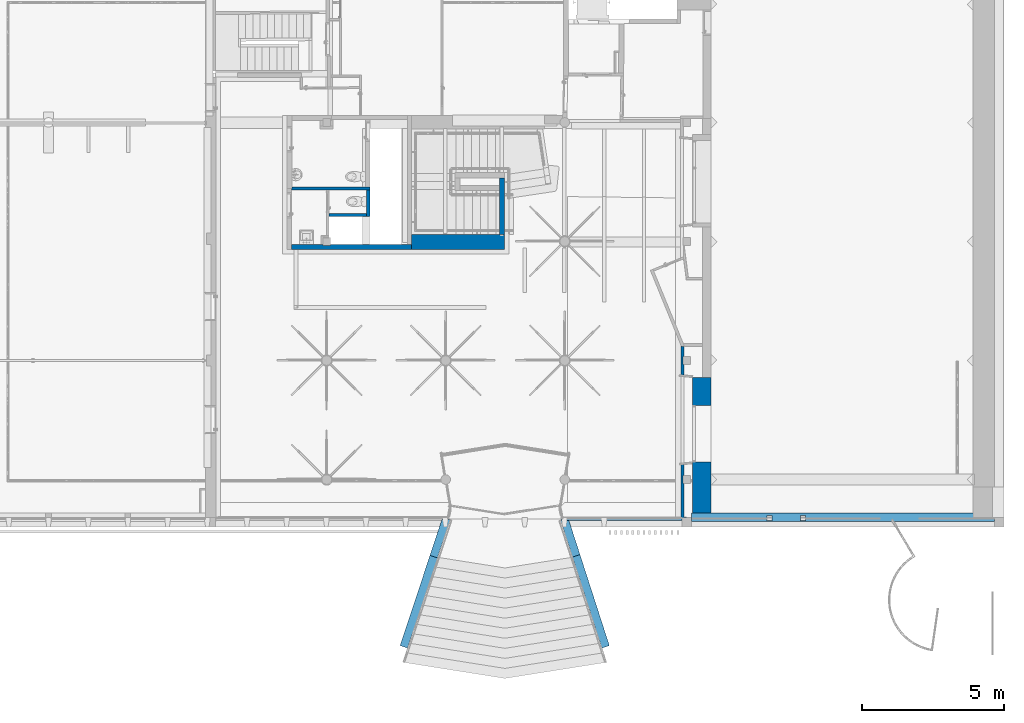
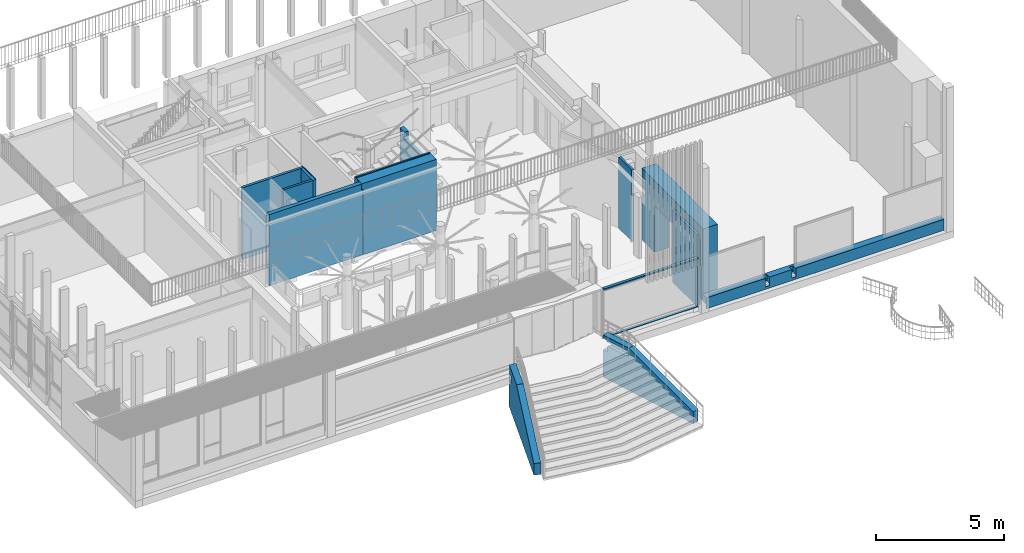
# One storey, part 35 of 65: 13 walls, 2 openings.
"""IFC4 building model written with IfcOpenShell, lengths in metres."""

import ifcopenshell
import ifcopenshell.guid

model = None  # the IFC model being written
_history = None  # IfcOwnerHistory: only IFC2X3 demands one
_inside = {}  # id of a spatial element -> (the spatial element, [elements in it])
_under = {}  # id of a project, library or spatial element -> (it, [spatial elements below it])
_declared = {}  # id of a project -> (the project, [libraries it declares])
_typed = {}  # id of a type object -> (the type object, [elements of that type])
_made_of = {}  # id of a material, layer set ... -> (it, [elements and type objects made of it])


def new_model(schema):
    """Start an empty IFC model of exactly this schema.

    Asked for "IFC4X3", IfcOpenShell would pick the latest addendum, in which some entities
    have other attributes; the version numbers below select the first issue.
    IFC2X3 requires an IfcOwnerHistory on every rooted entity: one is made here for all.
    """
    global model, _history
    if schema == "IFC4X3":
        model = ifcopenshell.file(schema_version=(4, 3, 0, 0))
    else:
        model = ifcopenshell.file(schema=schema)
    _inside.clear()
    _under.clear()
    _declared.clear()
    _typed.clear()
    _made_of.clear()
    _history = None
    if model.schema == "IFC2X3":
        org = make("IfcOrganization", Name="unknown")
        user = make(
            "IfcPersonAndOrganization",
            ThePerson=make("IfcPerson", FamilyName="unknown"),
            TheOrganization=org,
        )
        app = make(
            "IfcApplication",
            ApplicationDeveloper=org,
            Version="unknown",
            ApplicationFullName="unknown",
            ApplicationIdentifier="unknown",
        )
        _history = make(
            "IfcOwnerHistory",
            OwningUser=user,
            OwningApplication=app,
            ChangeAction="ADDED",
            CreationDate=0,
        )
    return model


def make(cls, **values):
    """One entity of the class cls with the attributes given. An attribute that is None is left unset."""
    return model.create_entity(
        cls, **{name: value for name, value in values.items() if value is not None}
    )


def entity(cls, *values):
    """Any entity or typed value of the class cls, its attributes in the order of the schema. None: left unset."""
    e = model.create_entity(cls)
    for i, value in enumerate(values):
        if value is not None:
            e[i] = value
    return e


def rooted(cls, **values):
    """An entity with a GlobalId (a new one), such as an element, a storey or a relation."""
    return make(cls, GlobalId=ifcopenshell.guid.new(), OwnerHistory=_history, **values)


def si_unit(unit_type, name, prefix=None):
    """IfcSIUnit, for example si_unit("LENGTHUNIT", "METRE", prefix="MILLI")."""
    return make("IfcSIUnit", UnitType=unit_type, Prefix=prefix, Name=name)


def converted_unit(unit_type, name, factor, base, dimensions=None, offset=None):
    """IfcConversionBasedUnit, such as the inch: factor (a typed value) times the base unit."""
    return make(
        "IfcConversionBasedUnit"
        if offset is None
        else "IfcConversionBasedUnitWithOffset",
        ConversionOffset=offset,
        Dimensions=None
        if dimensions is None
        else entity("IfcDimensionalExponents", *dimensions),
        UnitType=unit_type,
        Name=name,
        ConversionFactor=make(
            "IfcMeasureWithUnit", ValueComponent=factor, UnitComponent=base
        ),
    )


def derived_unit(unit_type, elements):
    """IfcDerivedUnit: a product of units, each with its exponent."""
    return make(
        "IfcDerivedUnit",
        Elements=[
            make("IfcDerivedUnitElement", Unit=unit, Exponent=power)
            for unit, power in elements
        ],
        UnitType=unit_type,
    )


def assignment(units):
    """IfcUnitAssignment: the units of a project."""
    return None if units is None else make("IfcUnitAssignment", Units=units)


def point(xyz):
    """IfcCartesianPoint."""
    return None if xyz is None else make("IfcCartesianPoint", Coordinates=xyz)


def direction(xyz):
    """IfcDirection."""
    return None if xyz is None else make("IfcDirection", DirectionRatios=xyz)


def frame(location, z_axis=None, x_axis=None):
    """IfcAxis2Placement3D, a coordinate frame: its origin and axes. An axis left out is left unset."""
    return make(
        "IfcAxis2Placement3D",
        Location=point(location),
        Axis=direction(z_axis),
        RefDirection=direction(x_axis),
    )


def origin():
    """The frame at (0, 0, 0) with its axes left unset."""
    return frame((0.0, 0.0, 0.0))


def place(relative_to, where):
    """IfcLocalPlacement: puts the frame where relative to a parent placement (None: the world)."""
    return make(
        "IfcLocalPlacement", PlacementRelTo=relative_to, RelativePlacement=where
    )


def context(
    kind, dimensions, precision=None, world=None, true_north=None, identifier=None
):
    """IfcGeometricRepresentationContext, for example the 3D "Model" context."""
    return make(
        "IfcGeometricRepresentationContext",
        ContextIdentifier=identifier,
        ContextType=kind,
        CoordinateSpaceDimension=dimensions,
        Precision=precision,
        WorldCoordinateSystem=world,
        TrueNorth=true_north,
    )


def subcontext(parent, identifier, kind, view, scale=None):
    """IfcGeometricRepresentationSubContext, for example "Body" below "Model"."""
    return make(
        "IfcGeometricRepresentationSubContext",
        ContextIdentifier=identifier,
        ContextType=kind,
        ParentContext=parent,
        TargetScale=scale,
        TargetView=view,
    )


def project(units=None, contexts=None):
    """IfcProject with its units and contexts."""
    return rooted(
        "IfcProject",
        Name="project",
        RepresentationContexts=contexts,
        UnitsInContext=assignment(units),
    )


def spatial(cls, under=None, at=None, **own):
    """A site, building, storey or space (cls), placed at a placement, below another one or the project."""
    s = rooted(cls, ObjectPlacement=at, **own)
    if under is not None:
        _under.setdefault(under.id(), (under, []))[1].append(s)
    return s


def point_list(points):
    """IfcCartesianPointList2D or 3D."""
    cls = (
        "IfcCartesianPointList2D" if len(points[0]) == 2 else "IfcCartesianPointList3D"
    )
    return make(cls, CoordList=points)


def indexed_curve(points, segments=None, self_intersect=None):
    """IfcIndexedPolyCurve: lines and arcs through numbered points (the first is 1)."""
    return make(
        "IfcIndexedPolyCurve",
        Points=point_list(points),
        Segments=segments,
        SelfIntersect=self_intersect,
    )


def outline(outer, holes=None, kind="AREA"):
    """IfcArbitraryClosedProfileDef: a profile drawn as a closed curve; with holes, ...WithVoids."""
    if holes is None:
        return make("IfcArbitraryClosedProfileDef", ProfileType=kind, OuterCurve=outer)
    return make(
        "IfcArbitraryProfileDefWithVoids",
        ProfileType=kind,
        OuterCurve=outer,
        InnerCurves=holes,
    )


def extrude(swept, where, along, depth):
    """IfcExtrudedAreaSolid: the profile swept, set in the frame where, extruded along a direction by depth."""
    return make(
        "IfcExtrudedAreaSolid",
        SweptArea=swept,
        Position=where,
        ExtrudedDirection=direction(along),
        Depth=depth,
    )


def polygons(points, faces, closed=None, point_numbers=None):
    """IfcPolygonalFaceSet: a face is its outer loop, then its inner loops; points numbered from 1."""
    made = []
    for loops in faces:
        if len(loops) == 1:
            made.append(make("IfcIndexedPolygonalFace", CoordIndex=loops[0]))
        else:
            made.append(
                make(
                    "IfcIndexedPolygonalFaceWithVoids",
                    CoordIndex=loops[0],
                    InnerCoordIndices=loops[1:],
                )
            )
    return make(
        "IfcPolygonalFaceSet",
        Coordinates=point_list(points),
        Closed=closed,
        Faces=made,
        PnIndex=point_numbers,
    )


def shape(context_of_items, identifier, shape_type, items):
    """IfcShapeRepresentation: the items that make up one representation, for example the "Body"."""
    return make(
        "IfcShapeRepresentation",
        ContextOfItems=context_of_items,
        RepresentationIdentifier=identifier,
        RepresentationType=shape_type,
        Items=items,
    )


def material(Name=None, Category=None):
    """IfcMaterial."""
    return make("IfcMaterial", Name=Name, Category=Category)


def layer(
    of_material, thickness, ventilated=None, Name=None, Category=None, Priority=None
):
    """IfcMaterialLayer: one layer of a wall or slab, of a material (None: an air gap)."""
    return make(
        "IfcMaterialLayer",
        Material=of_material,
        LayerThickness=thickness,
        IsVentilated=ventilated,
        Name=Name,
        Category=Category,
        Priority=Priority,
    )


def layer_set(layers, Name=None):
    """IfcMaterialLayerSet."""
    return make("IfcMaterialLayerSet", MaterialLayers=layers, LayerSetName=Name)


def made_of(thing, what):
    """Note that an element or type object is made of a material, layer set ...; save() writes the relation."""
    if what is not None:
        _made_of.setdefault(what.id(), (what, []))[1].append(thing)
    return thing


def type_object(cls, material=None, **own):
    """A type object (cls), such as IfcWallType, which elements share."""
    return made_of(rooted(cls, **own), material)


def element(
    cls,
    number,
    at=None,
    inside=None,
    cuts=None,
    type_object=None,
    material=None,
    context=None,
    identifier="Body",
    shape_type=None,
    held_by="IfcProductDefinitionShape",
    body=None,
    shapes=None,
    **own,
):
    """One element of the class cls, such as IfcWall. Its Tag is "e" and its number.

    at: its placement. inside: the storey or other place that contains it. cuts: it is an
    opening in that element (IfcRelVoidsElement). A single representation is given by context,
    identifier, shape_type and body (its items); several are given by shapes. held_by: the class
    of the entity that holds the representations. save() writes the other relations.
    """
    e = rooted(cls, Tag="e%d" % number, ObjectPlacement=at, **own)
    if body is not None:
        shapes = [shape(context, identifier, shape_type, body)]
    if shapes is not None:
        e.Representation = make(held_by, Representations=shapes)
    if inside is not None:
        _inside.setdefault(inside.id(), (inside, []))[1].append(e)
    if cuts is not None:
        rooted(
            "IfcRelVoidsElement", RelatingBuildingElement=cuts, RelatedOpeningElement=e
        )
    if type_object is not None:
        _typed.setdefault(type_object.id(), (type_object, []))[1].append(e)
    return made_of(e, material)


def aggregate(whole, parts):
    """IfcRelAggregates: a whole, such as a stair, and the parts it consists of."""
    return rooted("IfcRelAggregates", RelatingObject=whole, RelatedObjects=parts)


def save(model, path):
    """Write the relations noted so far, then the file.

    IfcRelAggregates (storeys below a building ...), IfcRelContainedInSpatialStructure (elements
    in a storey), IfcRelDefinesByType, IfcRelAssociatesMaterial and IfcRelDeclares: one each for
    every whole, place, type object, material and project.
    """
    for whole, parts in _under.values():
        aggregate(whole, parts)
    for where, things in _inside.values():
        rooted(
            "IfcRelContainedInSpatialStructure",
            RelatedElements=things,
            RelatingStructure=where,
        )
    for kind, things in _typed.values():
        rooted("IfcRelDefinesByType", RelatedObjects=things, RelatingType=kind)
    for what, things in _made_of.values():
        rooted("IfcRelAssociatesMaterial", RelatedObjects=things, RelatingMaterial=what)
    for by, libraries in _declared.values():
        rooted("IfcRelDeclares", RelatingContext=by, RelatedDefinitions=libraries)
    model.write(path)


model = new_model("IFC4")

# Units and contexts
model_context = context("Model", 3, precision=1e-05, world=origin(), true_north=direction((6.12303176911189e-17, 1.0)))
body_context = subcontext(model_context, "Body", "Model", "MODEL_VIEW")
ifc_project = project(units=[si_unit("LENGTHUNIT", "METRE"), si_unit("AREAUNIT", "SQUARE_METRE"), si_unit("VOLUMEUNIT", "CUBIC_METRE"), converted_unit("PLANEANGLEUNIT", "DEGREE", entity("IfcRatioMeasure", 0.0174532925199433), si_unit("PLANEANGLEUNIT", "RADIAN"), dimensions=[0, 0, 0, 0, 0, 0, 0]), si_unit("MASSUNIT", "GRAM", prefix="KILO"), derived_unit("MASSDENSITYUNIT", [(si_unit("MASSUNIT", "GRAM", prefix="KILO"), 1), (si_unit("LENGTHUNIT", "METRE"), -3)]), derived_unit("MOMENTOFINERTIAUNIT", [(si_unit("LENGTHUNIT", "METRE"), 4)]), si_unit("TIMEUNIT", "SECOND"), si_unit("FREQUENCYUNIT", "HERTZ"), si_unit("THERMODYNAMICTEMPERATUREUNIT", "DEGREE_CELSIUS"), derived_unit("THERMALTRANSMITTANCEUNIT", [(si_unit("MASSUNIT", "GRAM", prefix="KILO"), 1), (si_unit("THERMODYNAMICTEMPERATUREUNIT", "KELVIN"), -1), (si_unit("TIMEUNIT", "SECOND"), -3)]), derived_unit("VOLUMETRICFLOWRATEUNIT", [(si_unit("LENGTHUNIT", "METRE"), 3), (si_unit("TIMEUNIT", "SECOND"), -1)]), si_unit("ELECTRICCURRENTUNIT", "AMPERE"), si_unit("ELECTRICVOLTAGEUNIT", "VOLT"), si_unit("POWERUNIT", "WATT"), si_unit("FORCEUNIT", "NEWTON", prefix="KILO"), si_unit("ILLUMINANCEUNIT", "LUX"), si_unit("LUMINOUSFLUXUNIT", "LUMEN"), si_unit("LUMINOUSINTENSITYUNIT", "CANDELA"), derived_unit("USERDEFINED", [(si_unit("MASSUNIT", "GRAM", prefix="KILO"), -1), (si_unit("LENGTHUNIT", "METRE"), -2), (si_unit("TIMEUNIT", "SECOND"), 3), (si_unit("LUMINOUSFLUXUNIT", "LUMEN"), 1)]), derived_unit("LINEARVELOCITYUNIT", [(si_unit("LENGTHUNIT", "METRE"), 1), (si_unit("TIMEUNIT", "SECOND"), -1)]), si_unit("PRESSUREUNIT", "PASCAL"), derived_unit("USERDEFINED", [(si_unit("LENGTHUNIT", "METRE"), -2), (si_unit("MASSUNIT", "GRAM", prefix="KILO"), 1), (si_unit("TIMEUNIT", "SECOND"), -2)]), derived_unit("LINEARFORCEUNIT", [(si_unit("MASSUNIT", "GRAM", prefix="KILO"), 1), (si_unit("LENGTHUNIT", "METRE"), 1), (si_unit("TIMEUNIT", "SECOND"), -2), (si_unit("LENGTHUNIT", "METRE"), -1)]), derived_unit("PLANARFORCEUNIT", [(si_unit("MASSUNIT", "GRAM", prefix="KILO"), 1), (si_unit("LENGTHUNIT", "METRE"), 1), (si_unit("TIMEUNIT", "SECOND"), -2), (si_unit("LENGTHUNIT", "METRE"), -2)])], contexts=[model_context])

# Site, building, storey
site_placement = place(None, origin())
site = spatial("IfcSite", under=ifc_project, at=site_placement, Name="Default", CompositionType="ELEMENT")
building_placement = place(site_placement, origin())
building = spatial("IfcBuilding", under=site, at=building_placement, Name="HOTEL CONSULAIRE BOULOGNE SUR MER", CompositionType="ELEMENT")
storey_placement = place(building_placement, origin())
storey = spatial("IfcBuildingStorey", under=building, at=storey_placement, Name="Niveau 0", CompositionType="ELEMENT", Elevation=1.31981936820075e-13)

# Wall
ifc_material = material(Name="Mur par défaut", Category="Divers")
ifc_layer_1 = layer(ifc_material, 0.18, Name="Mur par défaut", Category="Divers")
ifc_layer_set_1 = layer_set([ifc_layer_1], Name="Mur de base:Générique - Int.180")
wall_type_1 = type_object("IfcWallType", Name="Mur de base:Générique - Int.180", PredefinedType="NOTDEFINED", material=ifc_layer_set_1)
wall_1_placement = place(storey_placement, frame((-2.46935158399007, -20.0049143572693, 0.0)))
element("IfcWall", 1, at=wall_1_placement, inside=storey, type_object=wall_type_1, material=ifc_layer_set_1, Name="Mur de base:Générique - Int.180", ObjectType="Mur de base:Générique - Int.180", PredefinedType="NOTDEFINED", context=body_context, shape_type="Tessellation", body=[
    polygons([(1.10552835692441, 0.0900000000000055, 0.0), (1.05009062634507e-16, 0.0900000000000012, 0.0), (1.05009062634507e-16, 0.0900000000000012, 3.38652697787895), (1.10552835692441, 0.0900000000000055, 3.38652697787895), (6.80293085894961e-16, -0.0899999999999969, 4.03399441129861e-24), (4.22682289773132, -0.0899999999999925, 0.0), (4.22682289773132, -0.0899999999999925, 3.12470529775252), (4.16182289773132, -0.0899999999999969, 3.12470529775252), (4.16182289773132, -0.0899999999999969, 3.38652697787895), (6.80293085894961e-16, -0.0899999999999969, 3.38652697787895), (4.22682289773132, 0.0900000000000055, 0.0), (1.37552835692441, 0.0900000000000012, 4.03399441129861e-24), (1.37552835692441, 0.0900000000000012, 3.38652697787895), (4.16182289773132, 0.0900000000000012, 3.38652697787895), (4.16182289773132, 0.0900000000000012, 3.12470529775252), (4.22682289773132, 0.0900000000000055, 3.12470529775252), (1.10552835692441, 0.0540045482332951, 0.0), (1.37552835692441, 0.0540045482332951, 0.0), (1.37552835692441, 0.0540045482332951, 3.38652697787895), (1.10552835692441, 0.0540045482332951, 3.38652697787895)], [[[4, 1, 2, 3]], [[15, 16, 11, 12, 13, 14]], [[17, 20, 19, 18]], [[10, 5, 6, 7, 8, 9]], [[5, 2, 1, 17, 18, 12, 11, 6]], [[3, 2, 5, 10]], [[12, 18, 19, 13]], [[1, 4, 20, 17]], [[9, 8, 15, 14]], [[7, 6, 11, 16]], [[15, 8, 7, 16]], [[19, 20, 4, 3, 10, 9, 14, 13]]], closed=True),
])

# Wall, opening
wall_2_placement = place(storey_placement, frame((4.96288639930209, -19.5649143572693, -0.0200000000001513), z_axis=(0.0, 0.0, 1.0), x_axis=(0.0, 1.0, 0.0)))
wall_2 = element("IfcWall", 2, at=wall_2_placement, inside=storey, type_object=wall_type_1, material=ifc_layer_set_1, Name="Mur de base:Générique - Int.180", ObjectType="Mur de base:Générique - Int.180", PredefinedType="NOTDEFINED", context=body_context, shape_type="Tessellation", body=[
    polygons([(1.99602682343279, -0.089999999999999, -2.0726753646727e-16), (1.99602682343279, -0.089999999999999, 3.44152697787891), (1.54002682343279, -0.0899999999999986, 3.44152697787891), (1.54002682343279, -0.0899999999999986, 3.07152697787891), (0.0, -0.0899999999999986, 3.07152697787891), (0.0, -0.0899999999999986, 0.0200000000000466), (0.0, -0.0899999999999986, 0.0), (1.99602682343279, 0.0900000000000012, -2.0726753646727e-16), (0.0, 0.0900000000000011, 0.0), (0.0, 0.0900000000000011, 3.07152697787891), (1.54002682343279, 0.0900000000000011, 3.07152697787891), (1.54002682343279, 0.0900000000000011, 3.44152697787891), (1.72002682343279, 0.0900000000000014, 3.44152697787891), (1.99602682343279, 0.0900000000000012, 3.44152697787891)], [[[7, 1, 2, 3, 4, 5, 6]], [[13, 14, 8, 9, 10, 11, 12]], [[1, 8, 14, 2]], [[1, 7, 9, 8]], [[3, 2, 14, 13, 12]], [[5, 4, 11, 10]], [[6, 5, 10, 9, 7]], [[12, 11, 4, 3]]], closed=True),
])
opening_1_placement = place(wall_2_placement, origin())
element("IfcOpeningElement", 3, at=opening_1_placement, cuts=wall_2, Name="Mur de base:Générique - Int.180", ObjectType="Opening", PredefinedType="OPENING", context=body_context, shape_type="SweptSolid", body=[
    extrude(outline(indexed_curve([(-0.815013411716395, -0.185), (0.815013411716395, -0.185), (0.815013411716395, 0.185), (-0.815013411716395, 0.185), (-0.815013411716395, -0.185)], self_intersect=False)), frame((0.815013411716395, 0.0900000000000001, 3.25652697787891), z_axis=(0.0, -1.0, 0.0), x_axis=(-1.0, 0.0, 0.0)), (0.0, 0.0, 1.0), 0.18),
])

# Walls
ifc_layer_2 = layer(ifc_material, 0.1, Name="Mur par défaut", Category="Divers")
ifc_layer_set_2 = layer_set([ifc_layer_2], Name="Mur de base:Générique - Int. 100 mm")
wall_type_2 = type_object("IfcWallType", Name="Mur de base:Générique - Int. 100 mm", PredefinedType="NOTDEFINED", material=ifc_layer_set_2)
wall_3_placement = place(storey_placement, frame((-1.15234448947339, -18.8827095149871, -0.0200000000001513)))
element("IfcWall", 4, at=wall_3_placement, inside=storey, type_object=wall_type_2, material=ifc_layer_set_2, Name="Mur de base:Générique - Int. 100 mm", ObjectType="Mur de base:Générique - Int. 100 mm", PredefinedType="NOTDEFINED", context=body_context, shape_type="Tessellation", body=[
    polygons([(9.61060734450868e-17, -0.0500000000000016, -2.15727435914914e-16), (1.32461268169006, -0.0500000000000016, -2.15727435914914e-16), (1.32461268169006, -0.0500000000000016, 3.40652697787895), (9.61060734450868e-17, -0.0500000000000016, 3.40652697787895), (1.32461268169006, 0.0499999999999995, -2.15727435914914e-16), (1.46827233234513e-16, 0.0499999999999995, -2.15727435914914e-16), (1.14688420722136e-17, 0.0499999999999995, 3.40652697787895), (1.32461268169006, 0.0499999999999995, 3.40652697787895)], [[[4, 1, 2, 3]], [[8, 5, 6, 7]], [[2, 1, 6, 5]], [[6, 1, 4, 7]], [[2, 5, 8, 3]], [[3, 8, 7, 4]]], closed=True),
])
wall_4_placement = place(storey_placement, frame((11.3270009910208, -29.5980671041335, -0.0200000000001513), z_axis=(0.0, 0.0, 1.0), x_axis=(0.0, 1.0, 0.0)))
element("IfcWall", 5, at=wall_4_placement, inside=storey, type_object=wall_type_2, material=ifc_layer_set_2, Name="Mur de base:Générique - Int. 100 mm", ObjectType="Mur de base:Générique - Int. 100 mm", PredefinedType="NOTDEFINED", context=body_context, shape_type="Tessellation", body=[
    polygons([(1.91625908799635, -0.0500000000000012, -2.15727435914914e-16), (1.91625908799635, -0.0500000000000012, 3.40652697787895), (1.51715729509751, -0.0500000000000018, 3.40652697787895), (1.51715729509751, -0.0500000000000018, -2.15727435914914e-16), (0.0, -0.0500000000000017, 3.40652697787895), (0.0, -0.0500000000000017, -2.15727435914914e-16), (1.24715729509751, -0.0500000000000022, -2.15727435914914e-16), (1.24715729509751, -0.0500000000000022, 3.40652697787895), (1.90574866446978, 0.0499999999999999, -2.15727435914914e-16), (0.0, 0.0499999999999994, 0.0), (0.0, 0.0499999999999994, 3.40652697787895), (1.90574866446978, 0.0499999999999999, 3.40652697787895), (1.51715729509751, -0.0146373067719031, -2.15727435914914e-16), (1.24715729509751, -0.0146373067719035, -2.15727435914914e-16), (1.24715729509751, -0.0146373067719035, 3.40652697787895), (1.51715729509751, -0.0146373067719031, 3.40652697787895)], [[[3, 4, 1, 2]], [[5, 6, 7, 8]], [[13, 16, 15, 14]], [[12, 9, 10, 11]], [[7, 6, 10, 9, 1, 4, 13, 14]], [[5, 8, 15, 16, 3, 2, 12, 11]], [[6, 5, 11, 10]], [[13, 4, 3, 16]], [[1, 9, 12, 2]], [[14, 15, 8, 7]]], closed=True),
])
wall_5_placement = place(storey_placement, frame((11.3270009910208, -24.5317901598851, -0.0200000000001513), z_axis=(0.0, 0.0, 1.0), x_axis=(0.0, 1.0, 0.0)))
element("IfcWall", 6, at=wall_5_placement, inside=storey, type_object=wall_type_2, material=ifc_layer_set_2, Name="Mur de base:Générique - Int. 100 mm", ObjectType="Mur de base:Générique - Int. 100 mm", PredefinedType="NOTDEFINED", context=body_context, shape_type="Tessellation", body=[
    polygons([(1.00765659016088, -0.0500000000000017, -2.15727435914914e-16), (1.00765659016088, -0.0500000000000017, 3.40652697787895), (0.650880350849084, -0.0500000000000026, 3.40652697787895), (0.650880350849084, -0.0500000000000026, -2.15727435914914e-16), (0.0, -0.0500000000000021, 3.40652697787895), (0.0, -0.0500000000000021, -2.15727435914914e-16), (0.380880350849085, -0.0500000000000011, -2.15727435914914e-16), (0.380880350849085, -0.0500000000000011, 3.40652697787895), (1.03955892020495, 0.0499999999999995, -2.15727435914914e-16), (0.00874886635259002, 0.049999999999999, -2.15727435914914e-16), (0.00874886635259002, 0.049999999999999, 3.40652697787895), (1.03955892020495, 0.0499999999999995, 3.40652697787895), (1.00765659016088, 0.0369658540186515, -2.15727435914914e-16), (0.650880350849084, -0.014637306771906, -2.15727435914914e-16), (0.380880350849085, -0.0146373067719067, -2.15727435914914e-16), (0.380880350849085, -0.0146373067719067, 3.40652697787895), (0.650880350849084, -0.014637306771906, 3.40652697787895), (1.00765659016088, 0.0369658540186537, 3.40652697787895)], [[[3, 4, 1, 2]], [[5, 6, 7, 8]], [[14, 17, 16, 15]], [[12, 9, 10, 11]], [[7, 6, 10, 9, 13, 1, 4, 14, 15]], [[3, 2, 18, 12, 11, 5, 8, 16, 17]], [[11, 10, 6, 5]], [[2, 1, 13, 18]], [[15, 16, 8, 7]], [[18, 13, 9, 12]], [[4, 3, 17, 14]]], closed=True),
])
ifc_layer_3 = layer(ifc_material, 0.115, Name="Mur par défaut", Category="Divers")
ifc_layer_set_3 = layer_set([ifc_layer_3], Name="Mur de base:Générique - Int. 115 mm")
wall_type_3 = type_object("IfcWallType", Name="Mur de base:Générique - Int. 115 mm", PredefinedType="NOTDEFINED", material=ifc_layer_set_3)
wall_6_placement = place(storey_placement, frame((-2.46935158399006, -17.9450602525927, -0.0200000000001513)))
element("IfcWall", 7, at=wall_6_placement, inside=storey, type_object=wall_type_3, material=ifc_layer_set_3, Name="Mur de base:Générique - Int. 115 mm", ObjectType="Mur de base:Générique - Int. 115 mm", PredefinedType="NOTDEFINED", context=body_context, shape_type="Tessellation", body=[
    polygons([(4.38000897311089e-17, -0.0574999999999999, -2.15727435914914e-16), (1.22700709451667, -0.0574999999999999, -2.15727435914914e-16), (1.31700709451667, -0.0574999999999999, -2.15727435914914e-16), (2.64161977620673, -0.0574999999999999, -2.15727435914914e-16), (2.77161977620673, -0.0574999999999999, -2.15727435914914e-16), (2.77161977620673, -0.0574999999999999, 3.44152697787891), (2.76098663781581, -0.0574999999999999, 3.44152697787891), (2.76098663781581, -0.0574999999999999, 3.40652697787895), (2.64161977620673, -0.0574999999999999, 3.40652697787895), (1.31700709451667, -0.0574999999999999, 3.40652697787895), (1.22700709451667, -0.0574999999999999, 3.40652697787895), (4.38000897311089e-17, -0.0574999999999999, 3.40652697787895), (2.77161977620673, 0.0574999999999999, -2.15727435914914e-16), (2.61161977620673, 0.0574999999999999, -2.15727435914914e-16), (0.0198949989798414, 0.0574999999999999, -2.15727435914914e-16), (0.0198949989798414, 0.0574999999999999, 3.40652697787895), (2.61161977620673, 0.0574999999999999, 3.40652697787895), (2.76098663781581, 0.0574999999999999, 3.40652697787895), (2.76098663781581, 0.0574999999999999, 3.44152697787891), (2.77161977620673, 0.0574999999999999, 3.44152697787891), (-1.4829582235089e-16, 0.0, -2.15727435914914e-16), (0.0198949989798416, 0.0, -2.15727435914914e-16), (-1.4829582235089e-16, 0.0, 3.40652697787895), (0.0198949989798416, 0.0, 3.40652697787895)], [[[2, 3, 4, 5, 6, 7, 8, 9, 10, 11, 12, 1]], [[13, 14, 15, 16, 17, 18, 19, 20]], [[24, 22, 21, 23]], [[3, 2, 1, 21, 22, 15, 14, 13, 5, 4]], [[7, 6, 20, 19]], [[17, 16, 24, 23, 12, 11, 10, 9, 8, 18]], [[23, 21, 1, 12]], [[16, 15, 22, 24]], [[7, 19, 18, 8]], [[6, 5, 13, 20]]], closed=True),
])
ifc_layer_4 = layer(ifc_material, 0.13, Name="Mur par défaut", Category="Divers")
ifc_layer_set_4 = layer_set([ifc_layer_4], Name="Mur de base:Générique - Int. 130 mm")
wall_type_4 = type_object("IfcWallType", Name="Mur de base:Générique - Int. 130 mm", PredefinedType="NOTDEFINED", material=ifc_layer_set_4)
wall_7_placement = place(storey_placement, frame((0.237268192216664, -18.9327095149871, -0.0200000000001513), z_axis=(0.0, 0.0, 1.0), x_axis=(0.0, 1.0, 0.0)))
element("IfcWall", 8, at=wall_7_placement, inside=storey, type_object=wall_type_4, material=ifc_layer_set_4, Name="Mur de base:Générique - Int. 130 mm", ObjectType="Mur de base:Générique - Int. 130 mm", PredefinedType="NOTDEFINED", context=body_context, shape_type="Tessellation", body=[
    polygons([(0.0, -0.065, -2.15727435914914e-16), (0.930149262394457, -0.065, -2.15727435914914e-16), (0.930149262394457, -0.065, 3.44152697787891), (0.0, -0.065, 3.44152697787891), (0.930149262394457, 0.065, -2.15727435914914e-16), (0.100000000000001, 0.065, -2.15727435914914e-16), (0.0, 0.065, 0.0), (0.0, 0.065, 3.40652697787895), (0.100000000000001, 0.065, 3.40652697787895), (0.930149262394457, 0.065, 3.40652697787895), (0.930149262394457, 0.065, 0.0300000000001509), (0.930149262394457, -0.0543668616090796, 3.44152697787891), (0.0, -0.0543668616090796, 3.44152697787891), (0.0, -0.0543668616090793, 3.40652697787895), (0.930149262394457, -0.0543668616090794, 3.40652697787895)], [[[4, 1, 2, 3]], [[11, 5, 6, 7, 8, 9, 10]], [[13, 12, 15, 14]], [[2, 1, 7, 6, 5]], [[4, 3, 12, 13]], [[9, 8, 14, 15, 10]], [[14, 8, 7, 1, 4, 13]], [[2, 5, 11, 10, 15, 12, 3]]], closed=True),
])
ifc_layer_5 = layer(ifc_material, 0.53, Name="Mur par défaut", Category="Divers")
ifc_layer_set_5 = layer_set([ifc_layer_5], Name="Mur de base:Générique - Int.530")
wall_type_5 = type_object("IfcWallType", Name="Mur de base:Générique - Int.530", PredefinedType="NOTDEFINED", material=ifc_layer_set_5)
wall_8_placement = place(storey_placement, frame((1.67747131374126, -19.8299143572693, 0.0)))
element("IfcWall", 9, at=wall_8_placement, inside=storey, type_object=wall_type_5, material=ifc_layer_set_5, Name="Mur de base:Générique - Int.530", ObjectType="Mur de base:Générique - Int.530", PredefinedType="NOTDEFINED", context=body_context, shape_type="Tessellation", body=[
    polygons([(0.0799999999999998, -0.265, -9.4588531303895e-17), (3.37541508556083, -0.265, -9.45885272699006e-17), (3.37541508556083, -0.265, 3.3865269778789), (8.97080229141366e-17, -0.265, 3.3865269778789), (8.97080229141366e-17, -0.265, 3.12470529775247), (0.0149999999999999, -0.265, 3.12470529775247), (0.08, -0.265, 3.12470529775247), (3.37541508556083, 0.265, -9.4588531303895e-17), (0.0799999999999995, 0.265, -9.45885272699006e-17), (0.0799999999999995, 0.265, 3.12470529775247), (5.5744602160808e-17, 0.265, 3.12470529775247), (3.26461384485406e-16, 0.265, 3.42152697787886), (0.0799999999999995, 0.265, 3.42152697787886), (1.44534228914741, 0.265, 3.42152697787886), (3.37541508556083, 0.265, 3.42152697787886), (3.37541508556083, 0.265, 3.05152697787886), (0.0799999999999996, -0.0850000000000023, -9.45885272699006e-17), (6.80580667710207e-17, -0.0499195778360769, 3.42152697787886), (0.0150000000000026, -0.0499195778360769, 3.42152697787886), (0.015000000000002, 0.194999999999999, 3.42152697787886), (3.37541508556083, 0.195000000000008, 3.42152697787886), (3.37541508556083, 0.195000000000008, 3.3865269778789), (6.80580667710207e-17, -0.0499195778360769, 3.3865269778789), (0.0799999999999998, -0.0850000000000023, 3.12470529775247), (0.015000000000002, 0.194999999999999, 3.3865269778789), (0.0150000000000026, -0.0499195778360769, 3.3865269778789)], [[[4, 5, 6, 7, 1, 2, 3]], [[20, 25, 22, 21]], [[18, 23, 26, 19]], [[16, 8, 9, 10, 11, 12, 13, 14, 15]], [[2, 1, 17, 9, 8]], [[5, 11, 10, 24, 7, 6]], [[20, 21, 15, 14, 13, 12, 18, 19]], [[25, 26, 23, 4, 3, 22]], [[2, 8, 16, 15, 21, 22, 3]], [[20, 19, 26, 25]], [[23, 18, 12, 11, 5, 4]], [[17, 1, 7, 24, 10, 9]]], closed=True),
])

# Wall, opening
ifc_layer_6 = layer(ifc_material, 0.65, Name="Mur par défaut", Category="Divers")
ifc_layer_set_6 = layer_set([ifc_layer_6], Name="Mur de base:Générique - Int. 650")
wall_type_6 = type_object("IfcWallType", Name="Mur de base:Générique - Int. 650", PredefinedType="NOTDEFINED", material=ifc_layer_set_6)
wall_9_placement = place(storey_placement, frame((12.0014778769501, -29.3880671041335, -0.0200000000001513), z_axis=(0.0, 0.0, 1.0), x_axis=(0.0, 1.0, 0.0)))
wall_9 = element("IfcWall", 10, at=wall_9_placement, inside=storey, type_object=wall_type_6, material=ifc_layer_set_6, Name="Mur de base:Générique - Int. 650", ObjectType="Mur de base:Générique - Int. 650", PredefinedType="NOTDEFINED", context=body_context, shape_type="Tessellation", body=[
    polygons([(4.77654680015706, 0.325000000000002, -2.15727435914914e-16), (4.77654680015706, -0.324999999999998, -2.15727435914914e-16), (3.78508477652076, -0.324999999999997, -2.15727435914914e-16), (3.78508477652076, 0.325000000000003, -2.15727435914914e-16), (4.77654680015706, -0.324999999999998, 3.40652697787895), (0.0, -0.324999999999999, 3.40652697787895), (0.0, -0.324999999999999, 0.0200000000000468), (0.0, -0.324999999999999, -2.15727435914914e-16), (1.78801079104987, -0.324999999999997, -2.15727435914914e-16), (1.78801079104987, -0.324999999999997, 0.0200000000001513), (1.78801079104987, -0.324999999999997, 2.20791504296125), (3.78508477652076, -0.324999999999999, 2.20791504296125), (3.78508477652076, -0.324999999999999, 0.0200000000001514), (4.77654680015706, -0.324999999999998, 0.0200000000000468), (4.33146851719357e-15, 0.325, 3.40652697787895), (4.77654680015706, 0.325000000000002, 3.40652697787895), (4.77654680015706, 0.325000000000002, 0.0200000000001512), (3.78508477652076, 0.325, 0.0200000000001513), (3.78508477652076, 0.325, 2.20791504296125), (1.78801079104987, 0.325000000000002, 2.20791504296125), (1.78801079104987, 0.325000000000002, -2.15727435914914e-16), (1.73773537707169, 0.325000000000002, -2.15727435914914e-16), (4.33146851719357e-15, 0.325, -2.15727435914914e-16)], [[[2, 3, 4, 1]], [[9, 8, 23, 22, 21]], [[11, 20, 19, 12]], [[8, 9, 10, 11, 12, 13, 3, 2, 14, 5, 6, 7]], [[1, 4, 18, 19, 20, 21, 22, 23, 15, 16, 17]], [[14, 2, 1, 17, 16, 5]], [[10, 9, 21, 20, 11]], [[6, 5, 16, 15]], [[12, 19, 18, 4, 3, 13]], [[15, 23, 8, 7, 6]]], closed=True),
])
opening_2_placement = place(wall_9_placement, frame((1.78801079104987, 0.477400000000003, 0.0199999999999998)))
element("IfcOpeningElement", 11, at=opening_2_placement, cuts=wall_9, Name="Mur de base:Générique - Int. 650", ObjectType="Opening", PredefinedType="OPENING", context=body_context, shape_type="SweptSolid", body=[
    extrude(outline(indexed_curve([(-1.09395752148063, -0.998536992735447), (1.09395752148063, -0.998536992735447), (1.09395752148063, 0.998536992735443), (-1.09395752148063, 0.998536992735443), (-1.09395752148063, -0.998536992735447)], self_intersect=False)), frame((0.998536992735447, -0.954800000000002, 1.09395752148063), z_axis=(0.0, 1.0, 0.0), x_axis=(0.0, 0.0, 1.0)), (0.0, 0.0, 1.0), 0.9548),
])

# Walls
ifc_layer_7 = layer(ifc_material, 0.12, Name="Mur par défaut", Category="Divers")
ifc_layer_set_7 = layer_set([ifc_layer_7], Name="Mur de base:Générique - Int.120")
wall_type_7 = type_object("IfcWallType", Name="Mur de base:Générique - Int.120", PredefinedType="NOTDEFINED", material=ifc_layer_set_7)
wall_10_placement = place(storey_placement, frame((11.4596042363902, -29.5980671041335, -0.0200000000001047), z_axis=(0.0, 0.0, 1.0), x_axis=(-1.0, 0.0, 0.0)))
element("IfcWall", 12, at=wall_10_placement, inside=storey, type_object=wall_type_7, material=ifc_layer_set_7, Name="Mur de base:Générique - Int.120", ObjectType="Mur de base:Générique - Int.120", PredefinedType="NOTDEFINED", context=body_context, shape_type="Tessellation", body=[
    polygons([(0.15296593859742, -0.0439999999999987, 0.0), (0.15296593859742, -0.0439999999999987, 0.0199999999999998), (0.15296593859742, 0.0599999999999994, 0.0199999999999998), (0.15296593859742, 0.0599999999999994, 0.0), (4.41442746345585, 0.0599999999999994, 0.02), (4.41442746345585, 0.0599999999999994, 2.45337083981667e-16), (4.41442746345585, -0.0599999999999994, 2.45337083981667e-16), (4.41442746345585, -0.0599999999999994, 0.0200000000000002), (6.13868373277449e-16, -0.0599999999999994, 2.45337083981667e-16), (0.152965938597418, -0.0599999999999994, 0.0200000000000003), (0.152965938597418, -0.0599999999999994, 2.27), (4.41442746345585, -0.0599999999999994, 2.27), (4.41442746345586, -0.0599999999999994, 2.336), (0.152965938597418, -0.0599999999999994, 2.336), (0.152965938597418, -0.0599999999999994, 3.07852697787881), (6.13868373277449e-16, -0.0599999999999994, 3.07852697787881), (4.41442746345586, 0.0599999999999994, 2.27), (0.152965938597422, 0.0599999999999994, 2.27), (0.152965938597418, 0.0599999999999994, 2.336), (4.41442746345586, 0.0599999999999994, 2.336), (5.61410412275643e-16, -0.0439999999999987, 2.45337083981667e-16), (0.152965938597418, -0.0439999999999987, 3.07852697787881), (5.61410412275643e-16, -0.0439999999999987, 3.07852697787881), (0.152965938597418, -0.0439999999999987, 2.27), (0.152965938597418, -0.0439999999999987, 2.336)], [[[1, 2, 3, 4]], [[9, 16, 23, 21]], [[24, 25, 19, 18]], [[5, 6, 4, 3]], [[20, 17, 18, 19]], [[25, 24, 2, 1, 21, 23, 22]], [[8, 7, 6, 5]], [[13, 12, 17, 20]], [[24, 11, 10, 2]], [[25, 22, 15, 14]], [[11, 12, 13, 14, 15, 16, 9, 7, 8, 10]], [[1, 4, 6, 7, 9, 21]], [[24, 18, 17, 12, 11]], [[16, 15, 22, 23]], [[2, 10, 8, 5, 3]], [[25, 14, 13, 20, 19]]], closed=True),
])
ifc_layer_8 = layer(ifc_material, 0.3, Name="Mur par défaut", Category="Divers")
ifc_layer_set_8 = layer_set([ifc_layer_8], Name="Mur de base:Générique - Ext. 300 mm")
wall_type_8 = type_object("IfcWallType", Name="Mur de base:Générique - Ext. 300 mm", PredefinedType="NOTDEFINED", material=ifc_layer_set_8)
wall_11_placement = place(storey_placement, frame((11.6466382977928, -29.5380671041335, -0.220000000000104)))
element("IfcWall", 13, at=wall_11_placement, inside=storey, type_object=wall_type_8, material=ifc_layer_set_8, Name="Mur de base:Générique - Ext. 300 mm", ObjectType="Mur de base:Générique - Ext. 300 mm", PredefinedType="NOTDEFINED", context=body_context, shape_type="Tessellation", body=[
    polygons([(3.84178526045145, -0.120000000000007, 0.200000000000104), (2.83983957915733, -0.120000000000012, 0.200000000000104), (2.83983957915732, 1.29944055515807e-14, 0.200000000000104), (3.84178526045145, 1.73258740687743e-14, 0.200000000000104), (2.84001851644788, -0.150000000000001, 0.117985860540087), (2.83983957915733, -0.149000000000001, 0.117985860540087), (2.83983957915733, -0.120000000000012, 0.117985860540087), (2.65983957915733, -0.120000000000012, 0.117985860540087), (2.65983957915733, -0.150000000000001, 0.117985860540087), (9.93129766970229, 4.33146851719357e-14, 0.22), (9.93129766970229, 4.33146851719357e-14, 0.200000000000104), (4.02178526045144, 1.29944055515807e-14, 0.2), (4.02178526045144, 1.29944055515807e-14, 0.22), (2.65983957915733, -0.120000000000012, 0.200000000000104), (1.52445925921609e-15, -0.120000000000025, 0.200000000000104), (4.71821862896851e-15, 0.150000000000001, 0.200000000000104), (0.0298395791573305, 0.150000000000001, 0.200000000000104), (0.67983957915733, 0.150000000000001, 0.200000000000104), (0.679839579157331, 4.33146851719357e-15, 0.200000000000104), (2.65983957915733, 1.29944055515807e-14, 0.200000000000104), (2.83983957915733, 8.66293703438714e-15, 0.22), (3.84178526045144, 1.29944055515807e-14, 0.22), (1.65087138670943e-15, -0.150000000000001, -3.38395977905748e-17), (10.682, -0.150000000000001, -3.38395977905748e-17), (10.682, -0.150000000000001, 0.524591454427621), (4.02178526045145, -0.150000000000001, 0.524591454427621), (4.02178526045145, -0.150000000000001, 0.117985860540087), (3.84160632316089, -0.150000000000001, 0.117985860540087), (3.84160632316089, -0.150000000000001, 0.524591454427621), (2.84001851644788, -0.150000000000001, 0.524591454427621), (2.65983957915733, -0.150000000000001, 0.524591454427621), (1.65087138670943e-15, -0.150000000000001, 0.524591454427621), (10.682, 0.150000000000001, 0.524591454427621), (10.682, 0.150000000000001, -3.38395977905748e-17), (10.3862976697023, 0.150000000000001, -3.38395977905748e-17), (10.3862976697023, 0.150000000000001, 0.200000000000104), (9.93129766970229, 0.150000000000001, 0.2), (9.93129766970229, 0.150000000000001, 0.22), (0.679839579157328, 0.150000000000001, 0.22), (2.55248437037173e-15, 0.150000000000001, 0.524591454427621), (1.52445925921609e-15, -0.120000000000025, -3.38395977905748e-17), (10.3862976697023, -0.119999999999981, -3.38395977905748e-17), (2.65983957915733, 0.057, 0.524591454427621), (2.83983957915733, 0.057, 0.524591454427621), (2.83983957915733, -0.149000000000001, 0.524591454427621), (3.84178526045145, -0.148999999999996, 0.524591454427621), (3.84178526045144, 0.0570000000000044, 0.524591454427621), (4.02178526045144, 0.0570000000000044, 0.524591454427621), (2.65983957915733, 8.66293703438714e-15, 0.22), (2.65983957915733, 0.057, 0.22), (2.83983957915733, 0.057, 0.22), (3.84178526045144, 0.0570000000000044, 0.22), (4.02178526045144, 0.0570000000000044, 0.22), (3.84178526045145, -0.148999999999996, 0.117985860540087), (3.84178526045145, -0.120000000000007, 0.117985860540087), (4.02178526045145, -0.120000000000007, 0.200000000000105), (4.02178526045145, -0.120000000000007, 0.117985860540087), (0.679839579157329, 0.0, 0.22), (10.3862976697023, -0.119999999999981, 0.200000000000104)], [[[3, 4, 1, 2]], [[19, 20, 14, 15, 16, 17, 18]], [[42, 35, 34, 24, 23, 41]], [[49, 58, 39, 38, 10, 13, 53, 52, 22, 21, 51, 50]], [[36, 59, 56, 12, 11, 37]], [[6, 7, 8, 9, 5]], [[45, 30, 29, 46, 47, 48, 26, 25, 33, 40, 32, 31, 43, 44]], [[54, 28, 27, 57, 55]], [[10, 11, 12, 13]], [[21, 22, 4, 3]], [[34, 35, 36, 37, 38, 39, 18, 17, 16, 40, 33]], [[58, 49, 20, 19]], [[57, 56, 59, 42, 41, 15, 14, 8, 7, 2, 1, 55]], [[23, 24, 25, 26, 27, 28, 29, 30, 5, 9, 31, 32]], [[50, 51, 44, 43]], [[53, 48, 47, 52]], [[25, 24, 34, 33]], [[49, 50, 43, 31, 9, 8, 14, 20]], [[22, 52, 47, 46, 54, 55, 1, 4]], [[39, 58, 19, 18]], [[41, 23, 32, 40, 16, 15]], [[44, 51, 21, 3, 2, 7, 6, 45]], [[48, 53, 13, 12, 56, 57, 27, 26]], [[10, 38, 37, 11]], [[59, 36, 35, 42]], [[5, 30, 45, 6]], [[28, 54, 46, 29]]], closed=True),
])
ifc_layer_9 = layer(ifc_material, 0.28, Name="Mur par défaut", Category="Divers")
ifc_layer_set_9 = layer_set([ifc_layer_9], Name="Mur de base:Générique - Ext. 280mm")
wall_type_9 = type_object("IfcWallType", Name="Mur de base:Générique - Ext. 280mm", PredefinedType="NOTDEFINED", material=ifc_layer_set_9)
wall_12_placement = place(storey_placement, frame((1.49412229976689, -34.1184469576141, -1.85846559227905), z_axis=(0.0, 0.0, 1.0), x_axis=(0.314852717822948, 0.94914054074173, 0.0)))
element("IfcWall", 14, at=wall_12_placement, inside=storey, type_object=wall_type_9, material=ifc_layer_set_9, Name="Mur de base:Générique - Ext. 280mm", ObjectType="Mur de base:Générique - Ext. 280mm", PredefinedType="NOTDEFINED", context=body_context, shape_type="Tessellation", body=[
    polygons([(4.4612780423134, 0.0, 1.58846559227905), (3.38201365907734, 1.08286712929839e-15, 1.58846559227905), (3.40506983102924, -0.139999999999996, 1.58846559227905), (4.50771940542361, -0.14, 1.58846559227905), (4.76260328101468, 0.14, 2.00546559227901), (4.76260328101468, -0.14, 2.00546559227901), (4.76260328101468, -0.14, 1.83846559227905), (4.76260328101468, 0.14, 1.83846559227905), (4.33146851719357e-15, -0.139999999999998, 0.0), (4.76260328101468, -0.14, 0.0), (4.76260328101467, -0.14, 1.29846559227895), (4.50771940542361, -0.14, 1.29846559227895), (3.40506983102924, -0.14, 1.83846559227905), (3.3539647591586, -0.139999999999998, 2.00546559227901), (0.077995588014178, -0.139999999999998, 0.586265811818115), (4.33146851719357e-15, -0.139999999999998, 0.552476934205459), (4.76260328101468, 0.14, 0.0), (4.69509022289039, 0.140000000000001, 0.0), (4.33146851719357e-15, 0.140000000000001, 0.0), (4.33146851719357e-15, 0.140000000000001, 0.552476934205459), (0.077995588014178, 0.140000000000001, 0.586265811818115), (3.3539647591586, 0.140000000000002, 2.00546559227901), (4.65294683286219, 0.140000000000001, 1.83846559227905), (4.65294683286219, 0.140000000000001, 1.63846559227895), (4.41483667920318, 0.14, 1.63846559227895), (4.41483667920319, 0.140000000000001, 1.29846559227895), (4.69509022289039, 0.140000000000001, 1.29846559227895), (4.75198379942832, 0.14, 1.29846559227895), (4.75198379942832, 0.140000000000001, 1.58846559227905), (4.76260328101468, 0.14, 1.58846559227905), (4.76260328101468, -0.0635217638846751, 0.0), (4.76260328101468, 0.107986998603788, 1.58846559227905), (4.76260328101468, 0.107986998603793, 1.29846559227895), (4.76260328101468, -0.063521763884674, 1.29846559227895), (4.4612780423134, -1.08286712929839e-15, 1.63846559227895), (4.6993881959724, 0.0, 1.63846559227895), (3.38201365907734, 1.08286712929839e-15, 1.83846559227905), (4.69938819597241, -2.16573425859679e-15, 1.83846559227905)], [[[1, 2, 3, 4]], [[14, 6, 5, 22]], [[27, 26, 12, 11, 34, 33, 28]], [[32, 30, 29]], [[6, 7, 8, 5]], [[10, 31, 17, 30, 32, 33, 34, 11]], [[10, 11, 12, 4, 3, 13, 7, 6, 14, 15, 16, 9]], [[2, 1, 35, 36, 38, 37]], [[23, 24, 25, 26, 27, 28, 29, 30, 17, 18, 19, 20, 21, 22, 5, 8]], [[31, 10, 9, 19, 18, 17]], [[24, 36, 35, 25]], [[38, 23, 8, 7, 13, 37]], [[15, 14, 22, 21, 20, 16]], [[9, 16, 20, 19]], [[1, 4, 12, 26, 25, 35]], [[23, 38, 36, 24]], [[28, 33, 32, 29]], [[37, 13, 3, 2]]], closed=True),
])
wall_13_placement = place(storey_placement, frame((8.61216450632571, -34.1180234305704, -1.85846559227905), z_axis=(0.0, 0.0, 1.0), x_axis=(-0.307254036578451, 0.951627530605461, 0.0)))
element("IfcWall", 15, at=wall_13_placement, inside=storey, type_object=wall_type_9, material=ifc_layer_set_9, Name="Mur de base:Générique - Ext. 280mm", ObjectType="Mur de base:Générique - Ext. 280mm", PredefinedType="NOTDEFINED", context=body_context, shape_type="Tessellation", body=[
    polygons([(4.73394913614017, 0.140000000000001, 2.00546559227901), (4.73394913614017, -0.14, 2.00546559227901), (4.73394913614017, -0.14, 1.63846559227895), (4.73394913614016, -0.120317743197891, 1.63846559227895), (4.73394913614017, -0.120317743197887, 1.83846559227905), (4.73394913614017, 0.140000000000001, 1.83846559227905), (0.0, -0.139999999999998, 0.0), (4.73394913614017, -0.14, 0.0), (4.73394913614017, -0.14, 1.29846559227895), (4.40397175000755, -0.14, 1.29846559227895), (4.40397175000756, -0.139999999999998, 1.63846559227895), (3.3745164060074, -0.14, 2.00546559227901), (0.0, -0.139999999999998, 0.565), (4.73394913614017, 0.140000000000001, 0.0), (0.0, 0.140000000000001, 0.0), (0.0, 0.140000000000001, 0.565), (3.3745164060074, 0.140000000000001, 2.00546559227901), (3.39671669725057, 0.140000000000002, 1.83846559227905), (3.39671669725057, 0.140000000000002, 1.58846559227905), (4.494375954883, 0.140000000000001, 1.58846559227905), (4.494375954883, 0.140000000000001, 1.29846559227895), (4.73394913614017, 0.140000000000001, 1.29846559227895), (4.73394913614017, 0.0162731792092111, 0.0), (4.73394913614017, -0.120317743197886, 0.0), (4.73394913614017, 0.0162731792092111, 1.29846559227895), (4.73394913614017, -0.120317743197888, 1.29846559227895), (4.44917385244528, -2.16573425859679e-15, 1.58846559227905), (4.44917385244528, 0.0, 1.63846559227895), (4.68666172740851, 1.08286712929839e-15, 1.63846559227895), (4.65594602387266, -0.0951327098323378, 1.63846559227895), (3.37480874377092, 0.0, 1.58846559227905), (4.68666172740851, 1.08286712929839e-15, 1.83846559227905), (3.37480874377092, 0.0, 1.83846559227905), (4.65594602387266, -0.0951327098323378, 1.83846559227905)], [[[5, 6, 1, 2, 3, 4]], [[8, 24, 23, 14, 22, 25, 26, 9]], [[13, 7, 8, 9, 10, 11, 3, 2, 12]], [[18, 19, 20, 21, 22, 14, 15, 16, 17, 1, 6]], [[27, 31, 33, 32, 29, 28]], [[8, 7, 15, 14, 23, 24]], [[30, 4, 3, 11, 28, 29]], [[18, 6, 5, 34, 32, 33]], [[12, 2, 1, 17]], [[21, 10, 9, 26, 25, 22]], [[19, 31, 27, 20]], [[7, 13, 16, 15]], [[13, 12, 17, 16]], [[27, 28, 11, 10, 21, 20]], [[32, 34, 30, 29]], [[34, 5, 4, 30]], [[33, 31, 19, 18]]], closed=True),
])

save(model, "model.ifc")
